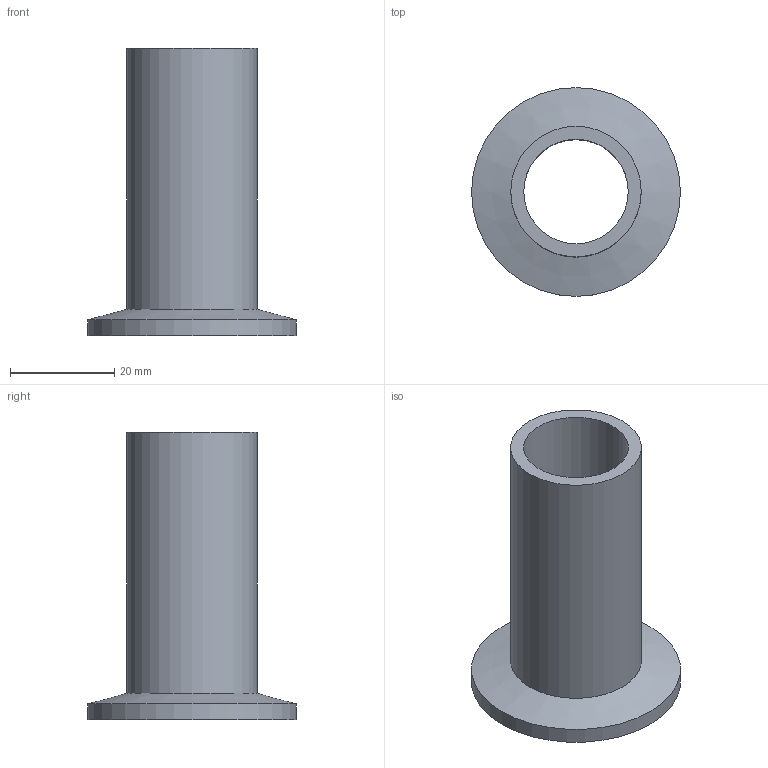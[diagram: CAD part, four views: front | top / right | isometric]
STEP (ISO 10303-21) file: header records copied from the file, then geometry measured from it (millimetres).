
FILE_DESCRIPTION( ( 'Unknown' ), '1' );
FILE_NAME( 'X:/Daten ( aktueller Bestand )/Projekte und Zeichnungen/Solid Edge/2 Bauteile KF/Stahl/KF mit Rohransatz Stahl lang/1563.stp', 'Unknown', ( 'Unknown' ), ( 'Unknown' ), 'XStep 1.0', 'Unknown', ' ' );
FILE_SCHEMA( ( 'automotive_design' ) );
Length unit declared in the file: millimetre
Products named in the file (1): 1
Bounding box: 40 x 40 x 55 mm (x, y, z)
Volume: 12544.6 mm3; surface area: 9688.2 mm2
Topology: 1 solids, 1 shells, 8 faces, 13 edges, 8 vertices
Faces by surface type: cylinder 4, plane 3, cone 1
Full cylindrical faces by diameter (mm): 20 x1, 22.2 x1, 25 x1, 40 x1
Entity records: 248 total; most frequent: DIRECTION 34, CARTESIAN_POINT 25, AXIS2_PLACEMENT_3D 17, EDGE_LOOP 16, ORIENTED_EDGE 16, FACE_OUTER_BOUND 12, STYLED_ITEM 8, PRESENTATION_STYLE_ASSIGNMENT 8
